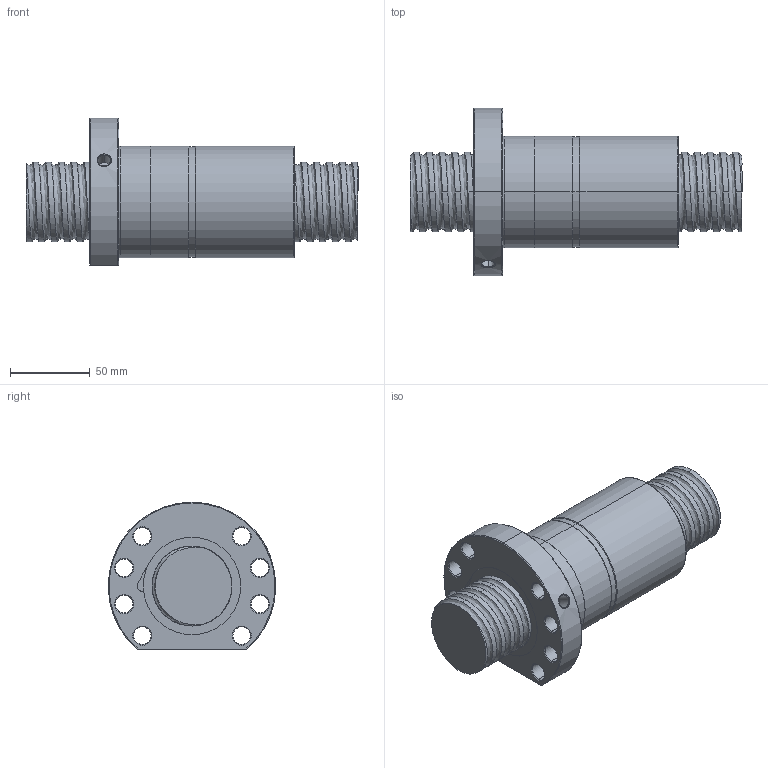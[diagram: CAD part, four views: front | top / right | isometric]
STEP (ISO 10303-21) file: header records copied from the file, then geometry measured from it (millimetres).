
FILE_DESCRIPTION (( 'STEP AP214' ), '1' );
FILE_NAME ('FDDC05008T5-D-B.STEP', '2010-07-07T01:43:49', ( 'XPAUTO' ), ( 'XPAUTO' ), 'SwSTEP 2.0', 'SolidWorks 2007', '' );
FILE_SCHEMA (( 'AUTOMOTIVE_DESIGN' ));
Length unit declared in the file: millimetre
Products named in the file (3): FDDC05008T5-D-B.sldasm-Part-2_預設; FDDC05008T5-D-B.sldasm-Part-1_預設; FDDC05008T5-D-B
Assembly tree (2 placements, depth 2):
  FDDC05008T5-D-B
    FDDC05008T5-D-B.sldasm-Part-2_預設
    FDDC05008T5-D-B.sldasm-Part-1_預設
Bounding box: 208 x 105 x 92.5 mm (x, y, z)
Volume: 680979 mm3; surface area: 109655 mm2
Topology: 2 solids, 2 shells, 162 faces, 407 edges, 254 vertices
Faces by surface type: cylinder 97, cone 32, plane 19, torus 9, bspline 5
Entity records: 47726 total; most frequent: CARTESIAN_POINT 43899, ORIENTED_EDGE 814, DIRECTION 733, EDGE_CURVE 407, AXIS2_PLACEMENT_3D 296, VERTEX_POINT 254, EDGE_LOOP 187, ADVANCED_FACE 162
